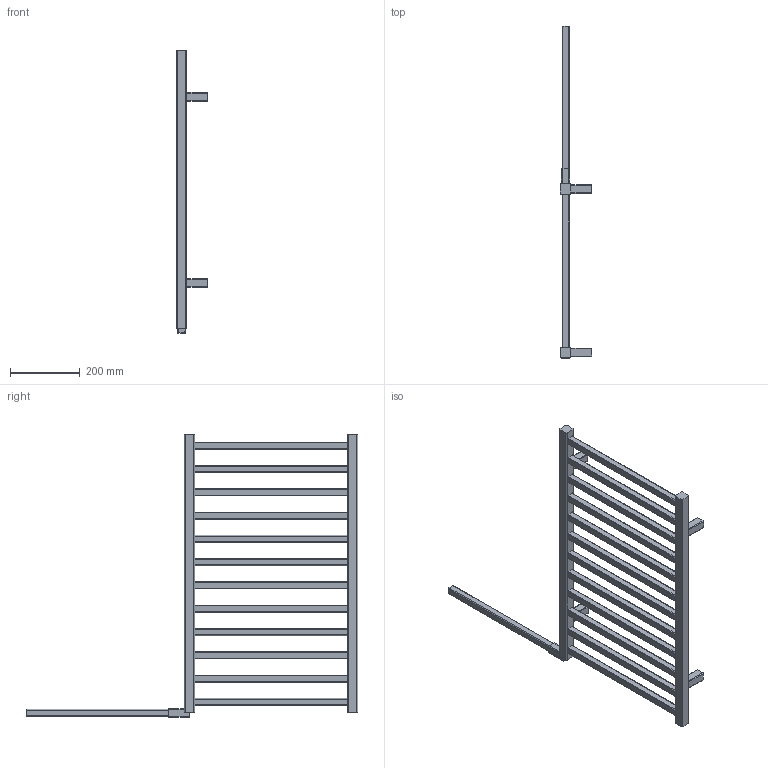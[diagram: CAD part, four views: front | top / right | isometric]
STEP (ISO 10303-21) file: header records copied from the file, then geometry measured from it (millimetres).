
FILE_DESCRIPTION( ( 'Unknown' ), '1' );
FILE_NAME( 'D:/Alplast sp. j/Witryna zespoBu - Projekty/Archiwum/Grzejniki Archiwum/Projekty/DESIGN PROGRAM/LIVIA/LIVIA 1.stp', 'Unknown', ( 'Unknown' ), ( 'Unknown' ), 'PSStep 10.1', 'Unknown', ' ' );
FILE_SCHEMA( ( 'AUTOMOTIVE_DESIGN { 1 0 10303 214 1 1 1 1 }' ) );
Length unit declared in the file: millimetre
Products named in the file (4): Assem1; kolektor LIVIA 1; kana³; uchwyt
Bounding box: 90 x 955 x 812.5 mm (x, y, z)
Volume: 4534948.8 mm3; surface area: 837509.4 mm2
Topology: 21 solids, 21 shells, 390 faces, 936 edges, 624 vertices
Faces by surface type: plane 306, cylinder 84
Entity records: 3463 total; most frequent: CARTESIAN_POINT 469, DIRECTION 458, ORIENTED_EDGE 432, EDGE_CURVE 216, LINE 192, VECTOR 192, VERTEX_POINT 144, AXIS2_PLACEMENT_3D 133
